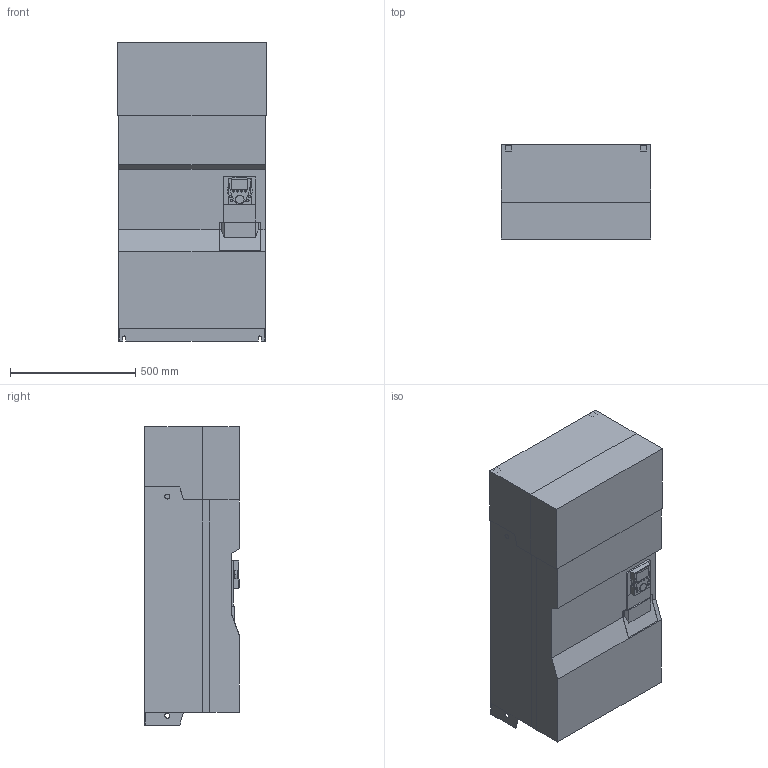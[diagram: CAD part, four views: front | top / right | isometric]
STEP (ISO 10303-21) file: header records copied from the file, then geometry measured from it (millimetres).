
FILE_DESCRIPTION(('starvars output'),'2;1');
FILE_NAME('ATV61HC40Y_3D.stp','19:52:54 2020/03/31',( 'Thomas Industrial Network Germany GmbH'),( 'Thomas Industrial Network Germany GmbH'),'unknown preprocess','ACIS' ,'unknown authorization');
FILE_SCHEMA(('AUTOMOTIVE_DESIGN_CC2 {UNKNOWN IMPLEMENTATION LEVEL}'));
Length unit declared in the file: millimetre
Products named in the file (2): PRODUCT_ID_77; PRODUCT_ID_78
Bounding box: 595 x 377 x 1190 mm (x, y, z)
Volume: 246774037.1 mm3; surface area: 2860262.2 mm2
Topology: 2 solids, 2 shells, 218 faces, 572 edges, 370 vertices
Faces by surface type: plane 158, cylinder 60
Entity records: 7771 total; most frequent: ORIENTED_EDGE 1144, CARTESIAN_POINT 986, DIRECTION 839, EDGE_CURVE 572, VECTOR 393, LINE 393, VERTEX_POINT 370, EDGE_LOOP 242
